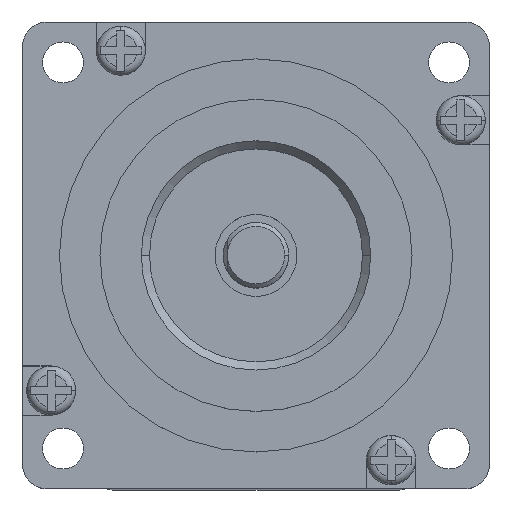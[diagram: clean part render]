
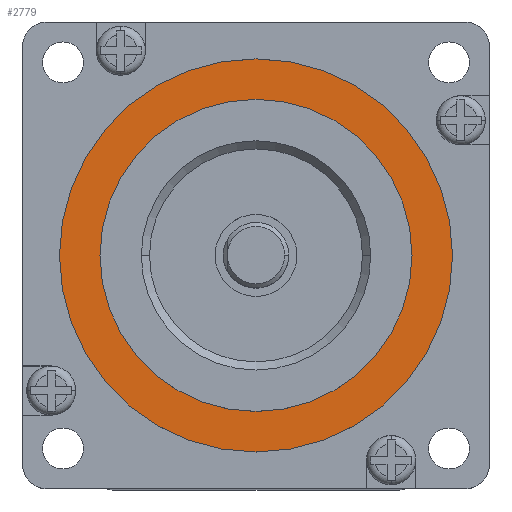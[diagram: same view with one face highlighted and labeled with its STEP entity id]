
A CAD part, top view. The second image highlights one B-rep face of the part: STEP entity #2779.
In plain terms, the highlighted planar face has unit normal (0, 0, 1) as drawn and (0, 0, -1) by its records, which use the part's own axes.
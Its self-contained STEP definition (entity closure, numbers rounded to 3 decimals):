
#1 = CIRCLE ( 'NONE', #4263, 19.05 ) ;
#311 = DIRECTION ( 'NONE',  ( -1., 0., 0. ) ) ;
#419 = AXIS2_PLACEMENT_3D ( 'NONE', #4404, #1738, #311 ) ;
#505 = CIRCLE ( 'NONE', #2345, 24. ) ;
#681 = VERTEX_POINT ( 'NONE', #3265 ) ;
#1039 = DIRECTION ( 'NONE',  ( -1., 0., 0. ) ) ;
#1199 = DIRECTION ( 'NONE',  ( 0., 0., -1. ) ) ;
#1302 = CARTESIAN_POINT ( 'NONE',  ( 24., 0., 0.25 ) ) ;
#1518 = CARTESIAN_POINT ( 'NONE',  ( 0., 0., 0.25 ) ) ;
#1554 = DIRECTION ( 'NONE',  ( 0., 0., -1. ) ) ;
#1555 = EDGE_LOOP ( 'NONE', ( #3621, #3560 ) ) ;
#1598 = DIRECTION ( 'NONE',  ( -1., 0., 0. ) ) ;
#1674 = EDGE_CURVE ( 'NONE', #5790, #681, #3972, .T. ) ;
#1738 = DIRECTION ( 'NONE',  ( 0., 0., -1. ) ) ;
#1949 = VERTEX_POINT ( 'NONE', #2880 ) ;
#2345 = AXIS2_PLACEMENT_3D ( 'NONE', #1518, #4664, #1598 ) ;
#2532 = DIRECTION ( 'NONE',  ( -1., 0., 0. ) ) ;
#2779 = ADVANCED_FACE ( 'NONE', ( #5102, #5252 ), #5755, .T. ) ;
#2880 = CARTESIAN_POINT ( 'NONE',  ( -19.05, 0., 0.25 ) ) ;
#3265 = CARTESIAN_POINT ( 'NONE',  ( -24., 0., 0.25 ) ) ;
#3515 = CARTESIAN_POINT ( 'NONE',  ( 0., 0., 0.25 ) ) ;
#3560 = ORIENTED_EDGE ( 'NONE', *, *, #1674, .T. ) ;
#3621 = ORIENTED_EDGE ( 'NONE', *, *, #5295, .T. ) ;
#3692 = CIRCLE ( 'NONE', #4804, 19.05 ) ;
#3774 = VERTEX_POINT ( 'NONE', #4503 ) ;
#3972 = CIRCLE ( 'NONE', #5208, 24. ) ;
#4075 = EDGE_LOOP ( 'NONE', ( #5249, #5328 ) ) ;
#4115 = EDGE_CURVE ( 'NONE', #3774, #1949, #3692, .T. ) ;
#4263 = AXIS2_PLACEMENT_3D ( 'NONE', #5750, #1199, #2532 ) ;
#4404 = CARTESIAN_POINT ( 'NONE',  ( 0., 0., 0.25 ) ) ;
#4409 = DIRECTION ( 'NONE',  ( -1., 0., 0. ) ) ;
#4503 = CARTESIAN_POINT ( 'NONE',  ( 19.05, 0., 0.25 ) ) ;
#4664 = DIRECTION ( 'NONE',  ( 0., 0., -1. ) ) ;
#4680 = CARTESIAN_POINT ( 'NONE',  ( 0., 0., 0.25 ) ) ;
#4804 = AXIS2_PLACEMENT_3D ( 'NONE', #4680, #1554, #1039 ) ;
#4819 = DIRECTION ( 'NONE',  ( 0., 0., -1. ) ) ;
#5102 = FACE_BOUND ( 'NONE', #4075, .T. ) ;
#5208 = AXIS2_PLACEMENT_3D ( 'NONE', #3515, #4819, #4409 ) ;
#5249 = ORIENTED_EDGE ( 'NONE', *, *, #4115, .F. ) ;
#5252 = FACE_OUTER_BOUND ( 'NONE', #1555, .T. ) ;
#5295 = EDGE_CURVE ( 'NONE', #681, #5790, #505, .T. ) ;
#5328 = ORIENTED_EDGE ( 'NONE', *, *, #5356, .F. ) ;
#5356 = EDGE_CURVE ( 'NONE', #1949, #3774, #1, .T. ) ;
#5750 = CARTESIAN_POINT ( 'NONE',  ( 0., 0., 0.25 ) ) ;
#5755 = PLANE ( 'NONE',  #419 ) ;
#5790 = VERTEX_POINT ( 'NONE', #1302 ) ;
